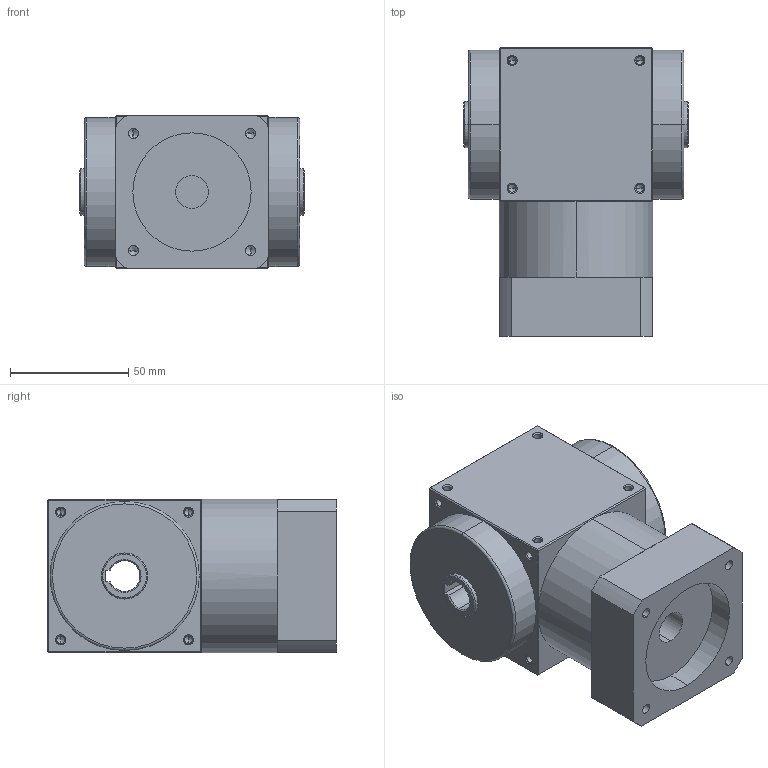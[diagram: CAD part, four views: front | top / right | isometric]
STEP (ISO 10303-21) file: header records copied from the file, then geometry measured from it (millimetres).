
FILE_DESCRIPTION (( 'STEP AP214' ), '1' );
FILE_NAME ('AT065-FH-001--14-50-70-M5.STEP', '2020-08-20T11:21:05', ( 'User' ), ( 'Far123' ), 'SwSTEP 2.0', 'SolidWorks 2015', '' );
FILE_SCHEMA (( 'AUTOMOTIVE_DESIGN' ));
Length unit declared in the file: millimetre
Products named in the file (1): AT065-FH-001--14-50-70-M5
Bounding box: 95 x 122 x 65 mm (x, y, z)
Volume: 527883.7 mm3; surface area: 53668.4 mm2
Topology: 1 solids, 1 shells, 262 faces, 656 edges, 354 vertices
Faces by surface type: cylinder 109, cone 98, plane 51, torus 4
Entity records: 8344 total; most frequent: CARTESIAN_POINT 1573, DIRECTION 1224, ORIENTED_EDGE 1216, EDGE_CURVE 608, AXIS2_PLACEMENT_3D 469, VERTEX_POINT 354, EDGE_LOOP 294, LINE 286
